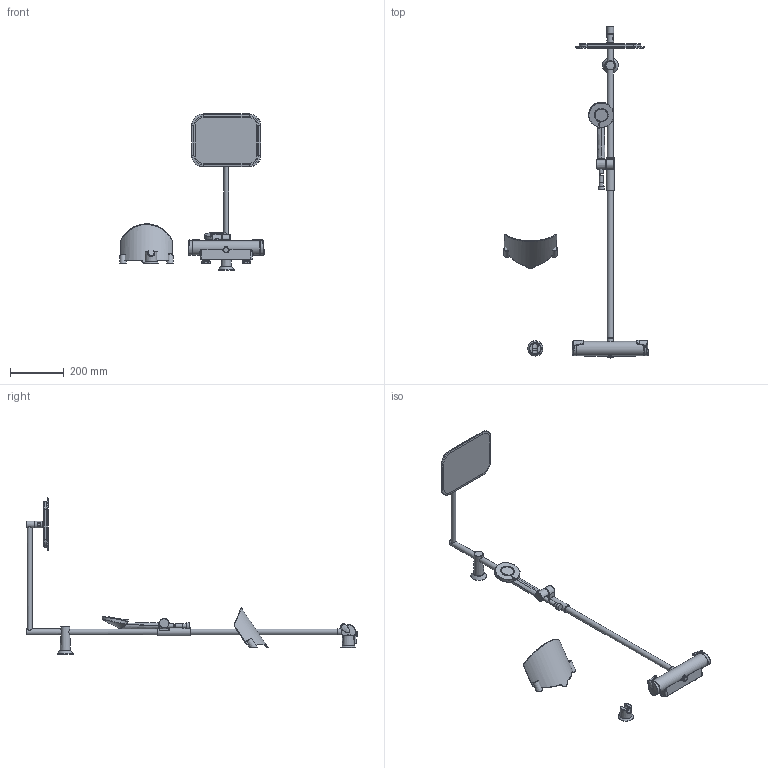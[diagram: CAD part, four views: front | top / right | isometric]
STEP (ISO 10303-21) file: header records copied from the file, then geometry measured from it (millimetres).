
FILE_DESCRIPTION (( 'STEP AP203' ), '1' );
FILE_NAME ('7192.STEP', '2017-03-09T05:59:28', ( '' ), ( '' ), 'SwSTEP 2.0', 'SolidWorks 2016', '' );
FILE_SCHEMA (( 'CONFIG_CONTROL_DESIGN' ));
Length unit declared in the file: millimetre
Products named in the file (1): 7192
Bounding box: 537.63 x 1234.69 x 580.65 mm (x, y, z)
Surface area: 441749.2 mm2 (no closed solid volume)
Topology: 0 solids, 9 shells, 571 faces, 1299 edges, 782 vertices
Faces by surface type: bspline 227, cylinder 115, plane 105, torus 60, cone 51, sphere 13
Full cylindrical faces by diameter (mm): 15 x2, 15.3 x1, 16.1 x1, 18 x2, 18.2 x1, 18.241 x1, 20.955 x1, 21.9 x2, 21.931 x1, 22 x2, 22.6 x1, 22.95 x1, 24 x2, 25 x2, 26 x2, 30 x1, 31.271 x1, 46.246 x1, 47.946 x1, 53 x1
Entity records: 40769 total; most frequent: CARTESIAN_POINT 30266, ORIENTED_EDGE 2354, DIRECTION 1698, EDGE_CURVE 1178, AXIS2_PLACEMENT_3D 754, VERTEX_POINT 745, EDGE_LOOP 693, FACE_OUTER_BOUND 629
